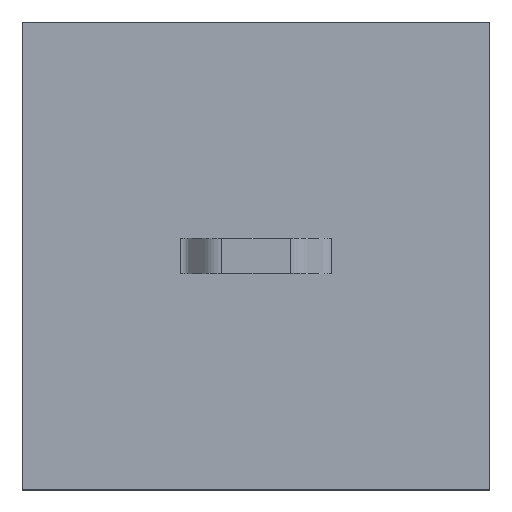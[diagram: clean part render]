
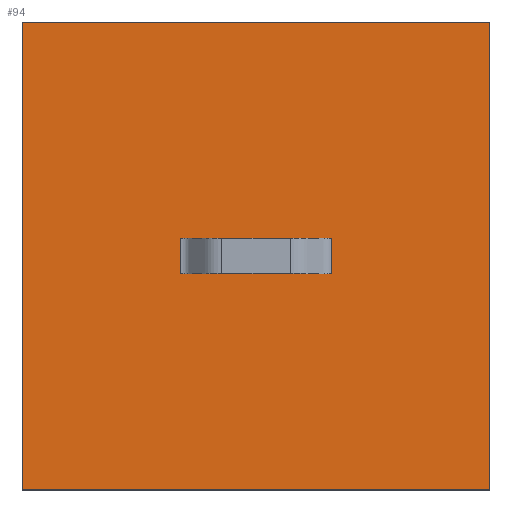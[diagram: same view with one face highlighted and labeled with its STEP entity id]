
A CAD part, top view. The second image highlights one B-rep face of the part: STEP entity #94.
In plain terms, the highlighted planar face has unit normal (0, 0, 1).
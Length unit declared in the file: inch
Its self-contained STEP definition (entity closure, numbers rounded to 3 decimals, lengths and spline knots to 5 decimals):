
#94=ADVANCED_FACE('',(#138,#139),#140,.T.);
#138=FACE_BOUND('',#188,.T.);
#139=FACE_OUTER_BOUND('',#189,.T.);
#140=PLANE('',#190);
#188=EDGE_LOOP('',(#361,#362,#363,#364,#365,#366,#367,#368));
#189=EDGE_LOOP('',(#369,#370,#371,#372));
#190=AXIS2_PLACEMENT_3D('',#373,#374,#375);
#361=ORIENTED_EDGE('',*,*,#462,.F.);
#362=ORIENTED_EDGE('',*,*,#424,.F.);
#363=ORIENTED_EDGE('',*,*,#464,.F.);
#364=ORIENTED_EDGE('',*,*,#467,.F.);
#365=ORIENTED_EDGE('',*,*,#465,.F.);
#366=ORIENTED_EDGE('',*,*,#441,.T.);
#367=ORIENTED_EDGE('',*,*,#463,.F.);
#368=ORIENTED_EDGE('',*,*,#413,.T.);
#369=ORIENTED_EDGE('',*,*,#468,.F.);
#370=ORIENTED_EDGE('',*,*,#409,.F.);
#371=ORIENTED_EDGE('',*,*,#469,.F.);
#372=ORIENTED_EDGE('',*,*,#470,.T.);
#373=CARTESIAN_POINT('',(-6.1662,-3.1,1.137));
#374=DIRECTION('',(-0.0,0.,1.0));
#375=DIRECTION('',(1.0,0.0,0.0));
#409=EDGE_CURVE('',#476,#479,#480,.T.);
#413=EDGE_CURVE('',#487,#484,#488,.T.);
#424=EDGE_CURVE('',#506,#501,#508,.T.);
#441=EDGE_CURVE('',#536,#534,#537,.T.);
#462=EDGE_CURVE('',#501,#484,#570,.T.);
#463=EDGE_CURVE('',#487,#534,#571,.T.);
#464=EDGE_CURVE('',#567,#506,#572,.T.);
#465=EDGE_CURVE('',#536,#548,#573,.T.);
#467=EDGE_CURVE('',#548,#567,#575,.T.);
#468=EDGE_CURVE('',#479,#576,#577,.T.);
#469=EDGE_CURVE('',#578,#476,#579,.T.);
#470=EDGE_CURVE('',#578,#576,#580,.T.);
#476=VERTEX_POINT('',#588);
#479=VERTEX_POINT('',#592);
#480=LINE('',#593,#594);
#484=VERTEX_POINT('',#600);
#487=VERTEX_POINT('',#604);
#488=LINE('',#605,#606);
#501=VERTEX_POINT('',#623);
#506=VERTEX_POINT('',#629);
#508=LINE('',#631,#632);
#534=VERTEX_POINT('',#669);
#536=VERTEX_POINT('',#671);
#537=LINE('',#672,#673);
#548=VERTEX_POINT('',#688);
#567=VERTEX_POINT('',#715);
#570=LINE('',#720,#721);
#571=LINE('',#722,#723);
#572=LINE('',#724,#725);
#573=LINE('',#726,#727);
#575=LINE('',#730,#731);
#576=VERTEX_POINT('',#732);
#577=LINE('',#733,#734);
#578=VERTEX_POINT('',#735);
#579=LINE('',#736,#737);
#580=LINE('',#738,#739);
#588=CARTESIAN_POINT('',(-4.3396,-4.025,1.137));
#592=CARTESIAN_POINT('',(-6.3396,-4.025,1.137));
#593=CARTESIAN_POINT('',(-5.3396,-4.025,1.137));
#594=VECTOR('',#753,1.0);
#600=CARTESIAN_POINT('',(-5.56902,-3.1,1.137));
#604=CARTESIAN_POINT('',(-5.10989,-3.1,1.137));
#605=CARTESIAN_POINT('',(8027.43413,-3.1,1.137));
#606=VECTOR('',#757,1.0);
#623=CARTESIAN_POINT('',(-5.66044,-3.1,1.137));
#629=CARTESIAN_POINT('',(-5.66044,-2.95,1.137));
#631=CARTESIAN_POINT('',(-5.66044,-2.95,1.137));
#632=VECTOR('',#778,1.0);
#669=CARTESIAN_POINT('',(-5.01847,-3.1,1.137));
#671=CARTESIAN_POINT('',(-5.01847,-2.95,1.137));
#672=CARTESIAN_POINT('',(-5.01847,-2.95,1.137));
#673=VECTOR('',#805,1.0);
#688=CARTESIAN_POINT('',(-5.10989,-2.95,1.137));
#715=CARTESIAN_POINT('',(-5.56902,-2.95,1.137));
#720=CARTESIAN_POINT('',(-5.86018,-3.1,1.137));
#721=VECTOR('',#838,1.0);
#722=CARTESIAN_POINT('',(-5.86018,-3.1,1.137));
#723=VECTOR('',#839,1.0);
#724=CARTESIAN_POINT('',(9992.28817,-2.95,1.137));
#725=VECTOR('',#840,1.0);
#726=CARTESIAN_POINT('',(9992.28817,-2.95,1.137));
#727=VECTOR('',#841,1.0);
#730=CARTESIAN_POINT('',(9992.28817,-2.95,1.137));
#731=VECTOR('',#843,1.0);
#732=CARTESIAN_POINT('',(-6.3396,-2.025,1.137));
#733=CARTESIAN_POINT('',(-6.3396,-3.1,1.137));
#734=VECTOR('',#844,1.0);
#735=CARTESIAN_POINT('',(-4.3396,-2.025,1.137));
#736=CARTESIAN_POINT('',(-4.3396,-2.95,1.137));
#737=VECTOR('',#845,1.0);
#738=CARTESIAN_POINT('',(-5.3396,-2.025,1.137));
#739=VECTOR('',#846,1.0);
#753=DIRECTION('',(-1.0,0.0,0.0));
#757=DIRECTION('',(-1.0,-0.0,0.0));
#778=DIRECTION('',(0.0,-1.0,0.0));
#805=DIRECTION('',(0.0,-1.0,0.0));
#838=DIRECTION('',(1.0,0.0,0.0));
#839=DIRECTION('',(1.0,0.0,0.0));
#840=DIRECTION('',(-1.0,-0.0,0.0));
#841=DIRECTION('',(-1.0,-0.0,0.0));
#843=DIRECTION('',(-1.0,-0.0,0.0));
#844=DIRECTION('',(0.,1.0,0.));
#845=DIRECTION('',(0.0,-1.0,0.0));
#846=DIRECTION('',(-1.0,0.0,0.0));
